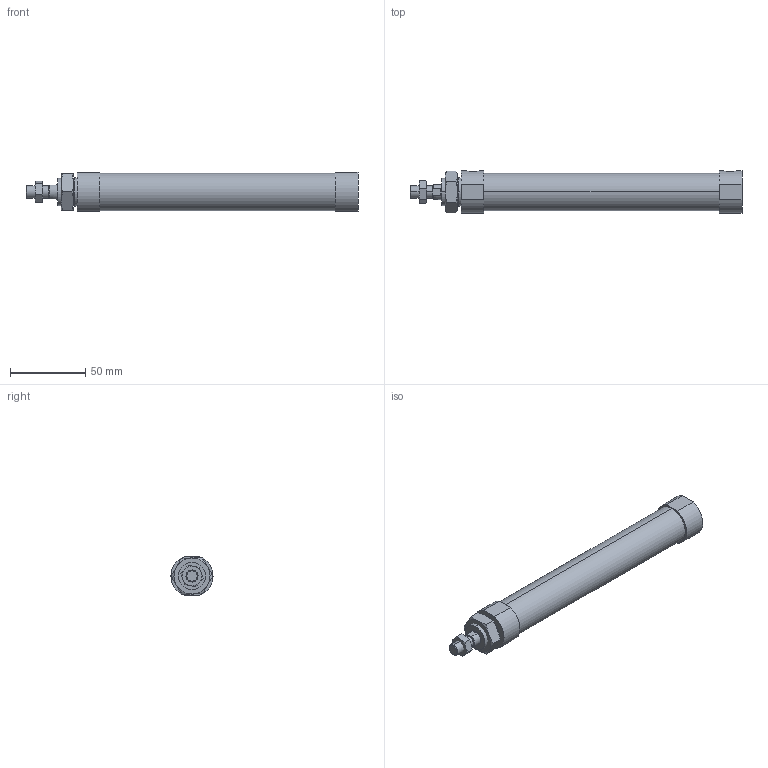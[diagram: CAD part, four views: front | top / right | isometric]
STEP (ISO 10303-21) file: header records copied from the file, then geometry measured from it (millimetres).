
FILE_DESCRIPTION (( 'STEP AP203' ), '1' );
FILE_NAME ('JGND2-20-125-N.STEP', '2016-08-04T02:32:26', ( '' ), ( '' ), 'SwSTEP 2.0', 'SolidWorks 2014', '' );
FILE_SCHEMA (( 'CONFIG_CONTROL_DESIGN' ));
Length unit declared in the file: millimetre
Products named in the file (4): J#2-20-125(P); JGND2-20-125-N
Assembly tree (3 placements, depth 2):
  JGND2-20-125-N
    J#2-20-125(P)
    (unnamed)
    (unnamed)
Bounding box: 221 x 28 x 26 mm (x, y, z)
Volume: 100951.2 mm3; surface area: 20536.4 mm2
Topology: 3 solids, 3 shells, 84 faces, 182 edges, 112 vertices
Faces by surface type: plane 34, torus 24, cylinder 22, cone 4
Entity records: 3040 total; most frequent: CARTESIAN_POINT 840, DIRECTION 378, ORIENTED_EDGE 364, EDGE_CURVE 182, AXIS2_PLACEMENT_3D 162, VERTEX_POINT 112, EDGE_LOOP 96, FACE_OUTER_BOUND 84
